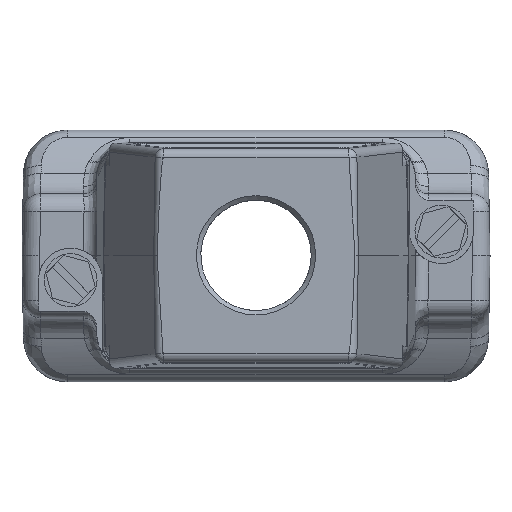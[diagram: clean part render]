
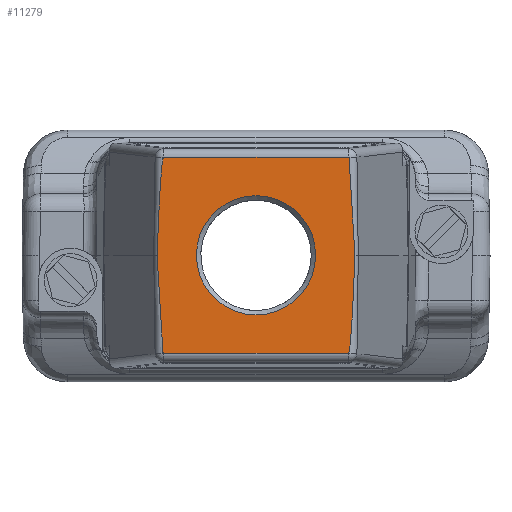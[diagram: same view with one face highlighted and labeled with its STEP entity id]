
A CAD part, top view. The second image highlights one B-rep face of the part: STEP entity #11279.
In plain terms, the highlighted planar face has unit normal (0, 0, 1).
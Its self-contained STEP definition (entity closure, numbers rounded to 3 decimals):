
#5942=ELLIPSE('',#22949,114.608,2.);
#5944=ELLIPSE('',#22952,114.608,2.);
#5946=ELLIPSE('',#22955,114.608,2.);
#5947=ELLIPSE('',#22958,114.608,2.);
#7569=LINE('',#32365,#8790);
#7570=LINE('',#32391,#8791);
#8790=VECTOR('',#25504,1.);
#8791=VECTOR('',#25547,1.);
#9551=PLANE('',#23516);
#11279=ADVANCED_FACE('',(#11698,#11699),#9551,.F.);
#11698=FACE_BOUND('',#12664,.T.);
#11699=FACE_BOUND('',#12665,.T.);
#12664=EDGE_LOOP('',(#17044));
#12665=EDGE_LOOP('',(#17045,#17046,#17047,#17048,#17049,#17050));
#17044=ORIENTED_EDGE('',*,*,#21072,.T.);
#17045=ORIENTED_EDGE('',*,*,#20230,.T.);
#17046=ORIENTED_EDGE('',*,*,#20235,.T.);
#17047=ORIENTED_EDGE('',*,*,#20239,.T.);
#17048=ORIENTED_EDGE('',*,*,#20243,.T.);
#17049=ORIENTED_EDGE('',*,*,#20237,.T.);
#17050=ORIENTED_EDGE('',*,*,#20233,.T.);
#18406=VERTEX_POINT('',#32362);
#18407=VERTEX_POINT('',#32364);
#18408=VERTEX_POINT('',#32372);
#18409=VERTEX_POINT('',#32376);
#18410=VERTEX_POINT('',#32380);
#18411=VERTEX_POINT('',#32384);
#18810=VERTEX_POINT('',#39143);
#20230=EDGE_CURVE('',#18406,#18407,#7569,.T.);
#20233=EDGE_CURVE('',#18408,#18406,#5942,.T.);
#20235=EDGE_CURVE('',#18407,#18409,#5944,.T.);
#20237=EDGE_CURVE('',#18410,#18408,#5946,.T.);
#20239=EDGE_CURVE('',#18409,#18411,#5947,.T.);
#20243=EDGE_CURVE('',#18411,#18410,#7570,.T.);
#21072=EDGE_CURVE('',#18810,#18810,#21474,.T.);
#21474=CIRCLE('',#23515,13.5);
#22949=AXIS2_PLACEMENT_3D('',#32371,#25515,#25516);
#22952=AXIS2_PLACEMENT_3D('',#32375,#25521,#25522);
#22955=AXIS2_PLACEMENT_3D('',#32379,#25527,#25528);
#22958=AXIS2_PLACEMENT_3D('',#32383,#25533,#25534);
#23515=AXIS2_PLACEMENT_3D('',#39142,#26880,#26881);
#23516=AXIS2_PLACEMENT_3D('',#39144,#26882,#26883);
#25504=DIRECTION('',(1.,0.,0.));
#25515=DIRECTION('',(0.,0.,1.));
#25516=DIRECTION('',(0.013,-1.,0.));
#25521=DIRECTION('',(0.,0.,1.));
#25522=DIRECTION('',(-0.013,-1.,0.));
#25527=DIRECTION('',(0.,0.,1.));
#25528=DIRECTION('',(-0.013,-1.,0.));
#25533=DIRECTION('',(0.,0.,1.));
#25534=DIRECTION('',(0.013,-1.,0.));
#25547=DIRECTION('',(-1.,0.,0.));
#26880=DIRECTION('',(0.,0.,-1.));
#26881=DIRECTION('',(-1.,0.,0.));
#26882=DIRECTION('',(0.,0.,-1.));
#26883=DIRECTION('',(-1.,0.,0.));
#32362=CARTESIAN_POINT('',(-20.932,-22.218,66.532));
#32364=CARTESIAN_POINT('',(20.932,-22.218,66.532));
#32365=CARTESIAN_POINT('',(-22.71,-22.218,66.532));
#32371=CARTESIAN_POINT('',(-22.466,92.379,66.532));
#32372=CARTESIAN_POINT('',(-22.413,0.,66.532));
#32375=CARTESIAN_POINT('',(22.466,92.379,66.532));
#32376=CARTESIAN_POINT('',(22.413,0.,66.532));
#32379=CARTESIAN_POINT('',(-22.466,-92.379,66.532));
#32380=CARTESIAN_POINT('',(-20.932,22.218,66.532));
#32383=CARTESIAN_POINT('',(22.466,-92.379,66.532));
#32384=CARTESIAN_POINT('',(20.932,22.218,66.532));
#32391=CARTESIAN_POINT('',(0.,22.218,66.532));
#39142=CARTESIAN_POINT('',(0.,0.,66.532));
#39143=CARTESIAN_POINT('',(-13.5,0.,66.532));
#39144=CARTESIAN_POINT('',(25.,-50.,66.532));
